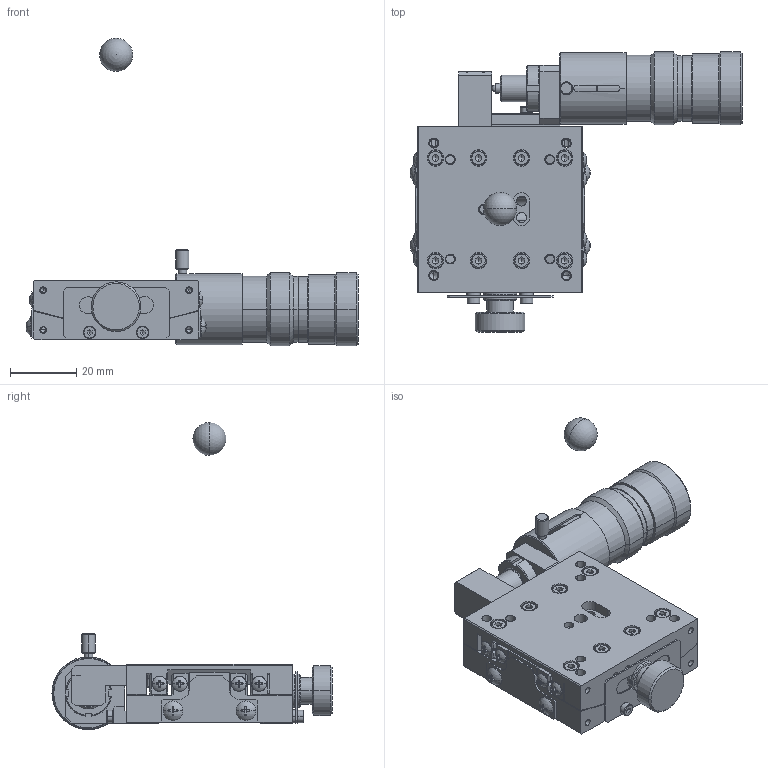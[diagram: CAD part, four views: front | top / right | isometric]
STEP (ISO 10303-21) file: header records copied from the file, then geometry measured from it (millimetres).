
FILE_DESCRIPTION (( 'STEP AP214' ), '1' );
FILE_NAME ('ST05A-S3M-R-CL.STEP', '2007-01-19T00:40:38', ( ' ' ), ( ' ' ), 'SwSTEP 2.0', 'SolidWorks 2006052', '' );
FILE_SCHEMA (( 'AUTOMOTIVE_DESIGN' ));
Length unit declared in the file: millimetre
Products named in the file (5): ST05A-S3M-R-CL-Part-1; 002570-1020(3D)-1; 002570-1010(3D)-1; FFP03-13(spindle)-3; ST05A-S3M-R-CL
Assembly tree (4 placements, depth 2):
  ST05A-S3M-R-CL
    002570-1010(3D)-1
    FFP03-13(spindle)-3
    ST05A-S3M-R-CL-Part-1
    002570-1020(3D)-1
Bounding box: 100.18 x 84.5 x 92.75 mm (x, y, z)
Volume: 61016 mm3; surface area: 35855 mm2
Topology: 4 solids, 38 shells, 1825 faces, 4460 edges, 2674 vertices
Faces by surface type: plane 788, cylinder 592, cone 350, torus 68, sphere 27
Entity records: 56581 total; most frequent: CARTESIAN_POINT 13562, DIRECTION 9298, ORIENTED_EDGE 8702, EDGE_CURVE 4351, AXIS2_PLACEMENT_3D 3584, VERTEX_POINT 2671, VECTOR 2130, LINE 2130
